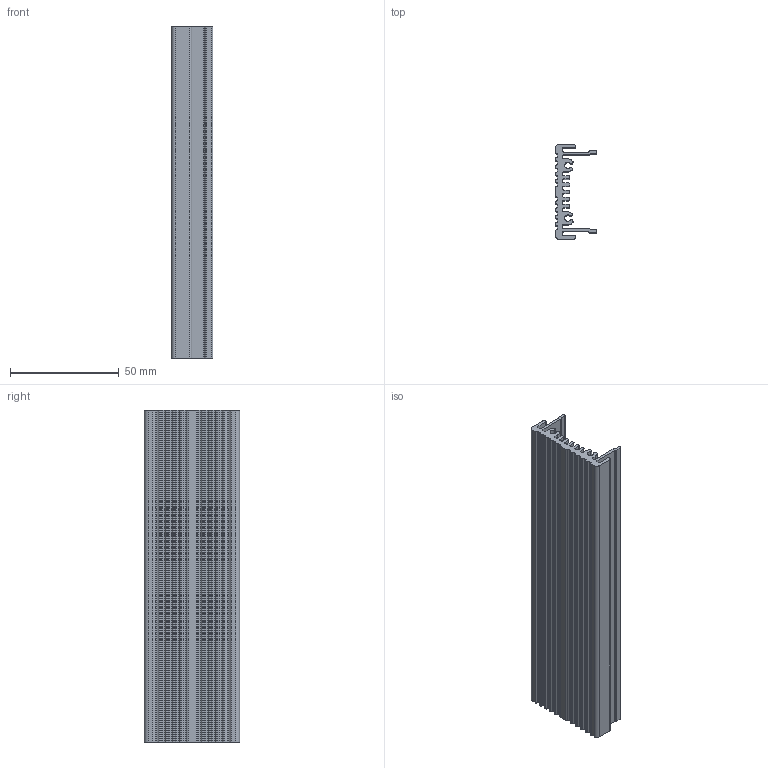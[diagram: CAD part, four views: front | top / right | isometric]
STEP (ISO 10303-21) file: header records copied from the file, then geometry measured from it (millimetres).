
FILE_DESCRIPTION (( 'STEP AP214' ), '1' );
FILE_NAME ('1U side extrusion Mk 9.STEP', '2014-09-23T17:43:19', ( '' ), ( '' ), 'SwSTEP 2.0', 'SolidWorks 2014', '' );
FILE_SCHEMA (( 'AUTOMOTIVE_DESIGN' ));
Length unit declared in the file: inch
Products named in the file (1): 1U side extrusion Mk 9
Bounding box: 19.04 x 43.66 x 152.4 mm (x, y, z)
Volume: 37259.5 mm3; surface area: 38002 mm2
Topology: 1 solids, 1 shells, 190 faces, 564 edges, 376 vertices
Faces by surface type: cylinder 102, plane 88
Entity records: 8903 total; most frequent: DIRECTION 1150, CARTESIAN_POINT 1131, ORIENTED_EDGE 1128, EDGE_CURVE 564, AXIS2_PLACEMENT_3D 395, VERTEX_POINT 376, LINE 360, VECTOR 360
